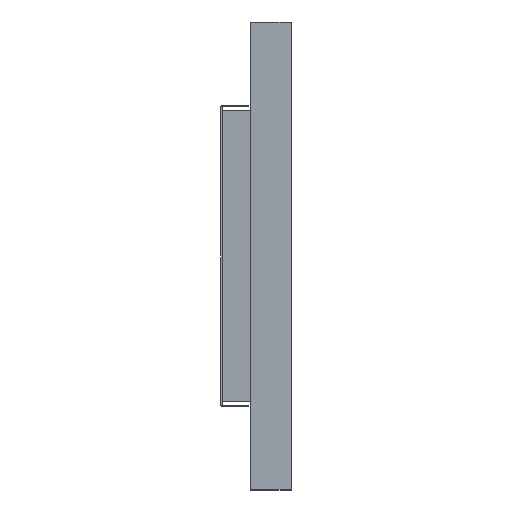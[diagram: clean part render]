
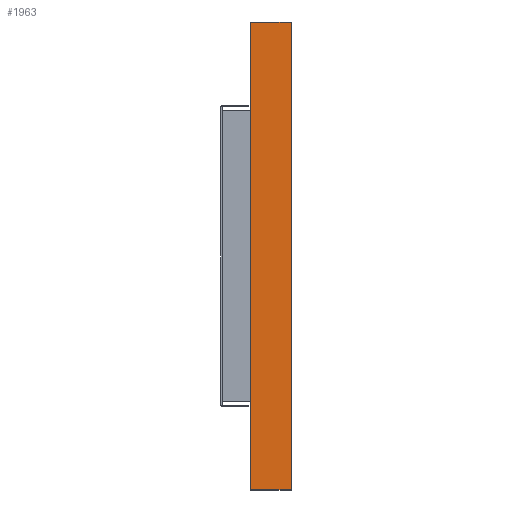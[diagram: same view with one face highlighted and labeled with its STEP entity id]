
A CAD part, left-side view. The second image highlights one B-rep face of the part: STEP entity #1963.
In plain terms, the highlighted planar face has unit normal (-1, 0, 0).
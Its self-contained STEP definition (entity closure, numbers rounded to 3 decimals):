
#23 = EDGE_CURVE ( 'NONE', #2211, #852, #232, .T. ) ;
#42 = AXIS2_PLACEMENT_3D ( 'NONE', #664, #1116, #2752 ) ;
#232 = LINE ( 'NONE', #2346, #1011 ) ;
#400 = VECTOR ( 'NONE', #871, 1000. ) ;
#401 = CARTESIAN_POINT ( 'NONE',  ( -258.592, -7.233, 36. ) ) ;
#408 = CARTESIAN_POINT ( 'NONE',  ( -258.592, -12.233, 36. ) ) ;
#444 = ORIENTED_EDGE ( 'NONE', *, *, #1173, .F. ) ;
#490 = ORIENTED_EDGE ( 'NONE', *, *, #23, .F. ) ;
#502 = CARTESIAN_POINT ( 'NONE',  ( -258.592, -12.233, -22. ) ) ;
#657 = CARTESIAN_POINT ( 'NONE',  ( -258.592, -7.233, 36. ) ) ;
#664 = CARTESIAN_POINT ( 'NONE',  ( -258.592, -7.233, -22. ) ) ;
#852 = VERTEX_POINT ( 'NONE', #401 ) ;
#871 = DIRECTION ( 'NONE',  ( 0., 0., 1. ) ) ;
#934 = ORIENTED_EDGE ( 'NONE', *, *, #1100, .T. ) ;
#1011 = VECTOR ( 'NONE', #3034, 1000. ) ;
#1100 = EDGE_CURVE ( 'NONE', #2211, #1722, #2224, .T. ) ;
#1116 = DIRECTION ( 'NONE',  ( 1., 0., 0. ) ) ;
#1173 = EDGE_CURVE ( 'NONE', #852, #2259, #2928, .T. ) ;
#1534 = EDGE_LOOP ( 'NONE', ( #2416, #444, #490, #934 ) ) ;
#1722 = VERTEX_POINT ( 'NONE', #502 ) ;
#1850 = LINE ( 'NONE', #2068, #400 ) ;
#1963 = ADVANCED_FACE ( 'NONE', ( #2703 ), #2948, .F. ) ;
#2024 = EDGE_CURVE ( 'NONE', #1722, #2259, #1850, .T. ) ;
#2068 = CARTESIAN_POINT ( 'NONE',  ( -258.592, -12.233, -22. ) ) ;
#2088 = VECTOR ( 'NONE', #2272, 1000. ) ;
#2211 = VERTEX_POINT ( 'NONE', #2747 ) ;
#2224 = LINE ( 'NONE', #2955, #2088 ) ;
#2259 = VERTEX_POINT ( 'NONE', #408 ) ;
#2272 = DIRECTION ( 'NONE',  ( 0., -1., 0. ) ) ;
#2346 = CARTESIAN_POINT ( 'NONE',  ( -258.592, -7.233, -22. ) ) ;
#2416 = ORIENTED_EDGE ( 'NONE', *, *, #2024, .T. ) ;
#2488 = VECTOR ( 'NONE', #2728, 1000. ) ;
#2703 = FACE_OUTER_BOUND ( 'NONE', #1534, .T. ) ;
#2728 = DIRECTION ( 'NONE',  ( 0., -1., 0. ) ) ;
#2747 = CARTESIAN_POINT ( 'NONE',  ( -258.592, -7.233, -22. ) ) ;
#2752 = DIRECTION ( 'NONE',  ( 0., 0., -1. ) ) ;
#2928 = LINE ( 'NONE', #657, #2488 ) ;
#2948 = PLANE ( 'NONE',  #42 ) ;
#2955 = CARTESIAN_POINT ( 'NONE',  ( -258.592, -7.233, -22. ) ) ;
#3034 = DIRECTION ( 'NONE',  ( 0., 0., 1. ) ) ;
